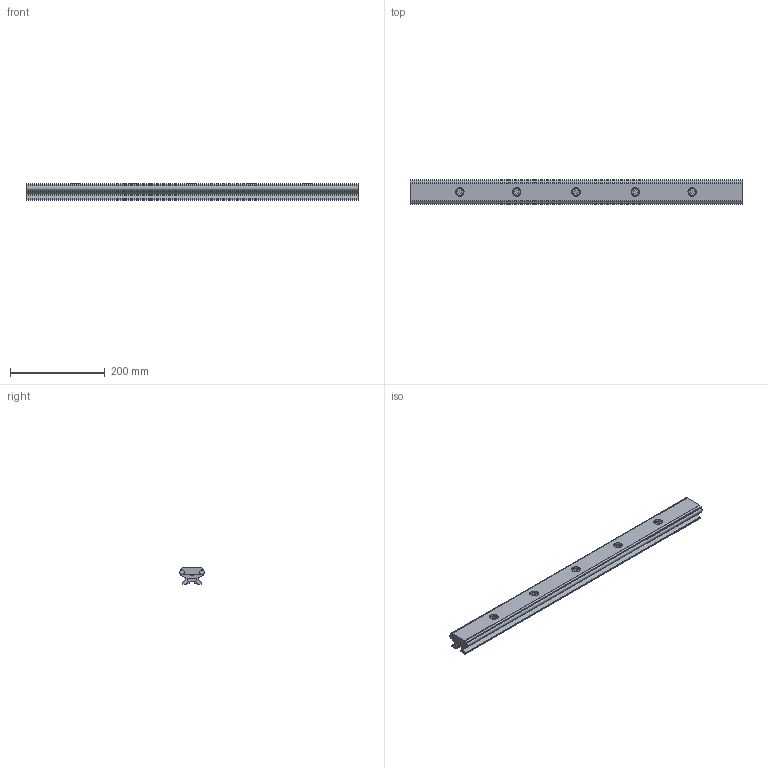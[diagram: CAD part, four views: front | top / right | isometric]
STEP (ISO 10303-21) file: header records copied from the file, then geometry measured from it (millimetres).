
FILE_DESCRIPTION(/* description */ ('Unknown'),/* implementation_level */ '2;1');
FILE_NAME(/* name */ 'HLFS52_700_Lang_mit_Bohrungen',/* time_stamp */ '2022-01-26T16:42:48+01:00',/* author */ ('Unknown'),/* organization */ ('Unknown'),/* preprocessor_version */ 'ST-DEVELOPER v16.7',/* originating_system */ 'Solid Edge',/* authorisation */ 'Unknown');
FILE_SCHEMA (('AUTOMOTIVE_DESIGN {1 0 10303 214 3 1 1}'));
Length unit declared in the file: millimetre
Products named in the file (6): HLFS52_700_Lang_mit_Bohrungen; Profil_oben-700_Lang-mit_Bohrungen_20220124; Welle_Dm_10-700_lang; Profil_unten-700_Lang_20220122; din_7984_m_10x20_20220121; DIN_557_Vierkantmutter_M10_20220121
Assembly tree (14 placements, depth 2):
  HLFS52_700_Lang_mit_Bohrungen
    Profil_oben-700_Lang-mit_Bohrungen_20220124
    Welle_Dm_10-700_lang  x2
    Profil_unten-700_Lang_20220122
    din_7984_m_10x20_20220121  x5
    DIN_557_Vierkantmutter_M10_20220121  x5
Bounding box: 700 x 52 x 34.3 mm (x, y, z)
Volume: 818454.7 mm3; surface area: 268594.4 mm2
Topology: 14 solids, 14 shells, 269 faces, 663 edges, 437 vertices
Faces by surface type: plane 153, cylinder 101, cone 10, torus 5
Full cylindrical faces by diameter (mm): 8.376 x10, 10 x12, 11 x5, 16 x5, 18 x5
Entity records: 5504 total; most frequent: CARTESIAN_POINT 1049, DIRECTION 890, ORIENTED_EDGE 862, EDGE_CURVE 431, AXIS2_PLACEMENT_3D 318, VERTEX_POINT 297, LINE 254, VECTOR 254
